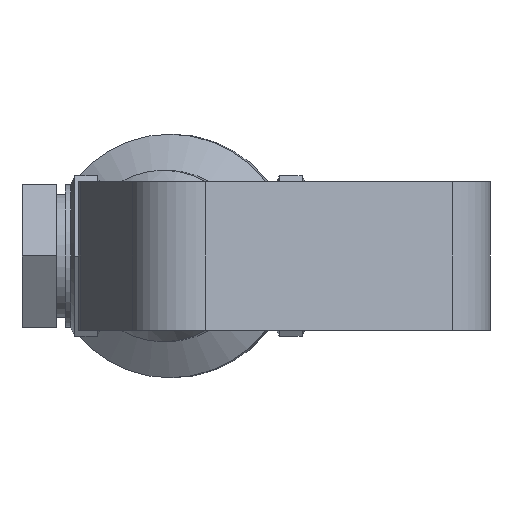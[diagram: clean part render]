
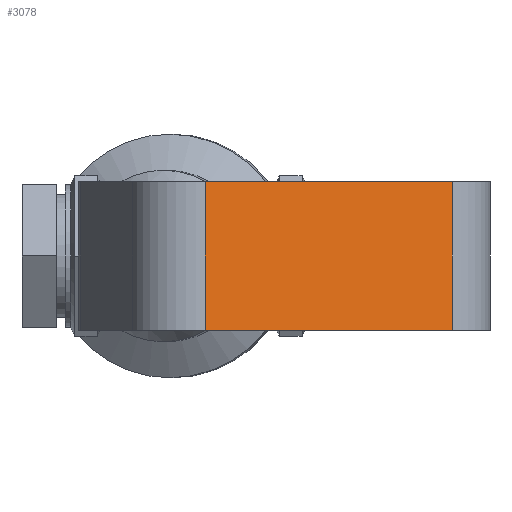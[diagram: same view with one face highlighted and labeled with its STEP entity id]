
A CAD part, front view. The second image highlights one B-rep face of the part: STEP entity #3078.
In plain terms, the highlighted planar face has unit normal (0.342, -0.94, 0).
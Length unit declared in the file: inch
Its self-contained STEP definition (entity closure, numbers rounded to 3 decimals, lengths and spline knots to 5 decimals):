
#107=PLANE('',#3402);
#244=FACE_OUTER_BOUND('',#426,.T.);
#426=EDGE_LOOP('',(#2130,#2131,#2132,#2133));
#619=LINE('',#4827,#863);
#626=LINE('',#4862,#870);
#627=LINE('',#4865,#871);
#628=LINE('',#4866,#872);
#863=VECTOR('',#3854,0.3937);
#870=VECTOR('',#3893,0.3937);
#871=VECTOR('',#3896,0.3937);
#872=VECTOR('',#3897,0.3937);
#1305=VERTEX_POINT('',#4824);
#1306=VERTEX_POINT('',#4826);
#1318=VERTEX_POINT('',#4860);
#1319=VERTEX_POINT('',#4864);
#1615=EDGE_CURVE('',#1305,#1306,#619,.T.);
#1632=EDGE_CURVE('',#1318,#1305,#626,.T.);
#1633=EDGE_CURVE('',#1319,#1318,#627,.T.);
#1634=EDGE_CURVE('',#1319,#1306,#628,.T.);
#2130=ORIENTED_EDGE('',*,*,#1632,.F.);
#2131=ORIENTED_EDGE('',*,*,#1633,.F.);
#2132=ORIENTED_EDGE('',*,*,#1634,.T.);
#2133=ORIENTED_EDGE('',*,*,#1615,.F.);
#3078=ADVANCED_FACE('',(#244),#107,.T.);
#3402=AXIS2_PLACEMENT_3D('',#4863,#3894,#3895);
#3854=DIRECTION('',(-0.94,-0.342,0.));
#3893=DIRECTION('',(0.,0.,-1.));
#3894=DIRECTION('center_axis',(0.342,-0.94,0.));
#3895=DIRECTION('ref_axis',(0.94,0.342,0.));
#3896=DIRECTION('',(0.94,0.342,0.));
#3897=DIRECTION('',(0.,0.,-1.));
#4824=CARTESIAN_POINT('',(2.30981,-4.96272,-0.65));
#4826=CARTESIAN_POINT('',(0.1472,-5.74985,-0.65));
#4827=CARTESIAN_POINT('',(2.30981,-4.96272,-0.65));
#4860=CARTESIAN_POINT('',(2.30981,-4.96272,0.65));
#4862=CARTESIAN_POINT('',(2.30981,-4.96272,0.));
#4863=CARTESIAN_POINT('Origin',(0.1472,-5.74985,0.));
#4864=CARTESIAN_POINT('',(0.1472,-5.74985,0.65));
#4865=CARTESIAN_POINT('',(2.30981,-4.96272,0.65));
#4866=CARTESIAN_POINT('',(0.1472,-5.74985,0.));
